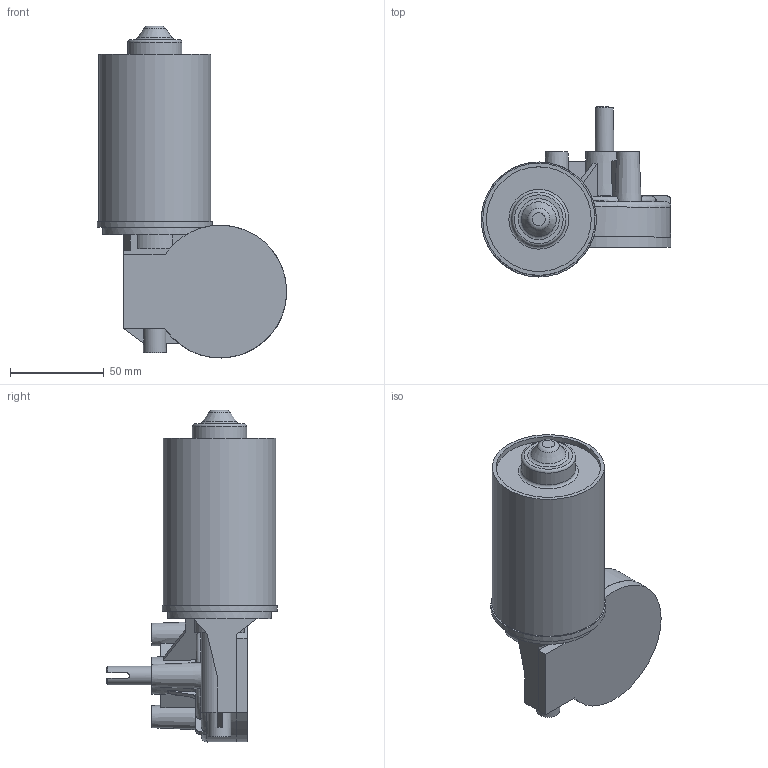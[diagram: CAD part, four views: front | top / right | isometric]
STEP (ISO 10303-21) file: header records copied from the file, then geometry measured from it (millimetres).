
FILE_DESCRIPTION(/* description */ (''),/* implementation_level */ '2;1');
FILE_NAME(/* name */ 'ZDW2560-3D-310.stp',/* time_stamp */ '2025-03-01T10:52:51+08:00',/* author */ (''),/* organization */ (''),/* preprocessor_version */ 'ST-DEVELOPER v16',/* originating_system */ 'SIEMENS PLM Software NX 10.0',/* authorisation */ '');
FILE_SCHEMA (('AUTOMOTIVE_DESIGN { 1 0 10303 214 3 1 1 1 }'));
Length unit declared in the file: millimetre
Products named in the file (1): Admi3630A68Bf4j4
Bounding box: 101.23 x 90.96 x 177.49 mm (x, y, z)
Volume: 76316.6 mm3; surface area: 84758 mm2
Topology: 5 solids, 6 shells, 230 faces, 650 edges, 431 vertices
Faces by surface type: plane 135, cylinder 69, torus 18, cone 8
Full cylindrical faces by diameter (mm): 3.1 x7, 3.4 x3, 6 x3, 10 x2, 12.2 x1, 29 x1, 56 x2, 60 x1, 61.5 x1
Entity records: 8124 total; most frequent: CARTESIAN_POINT 2294, ORIENTED_EDGE 1200, DIRECTION 1161, EDGE_CURVE 600, AXIS2_PLACEMENT_3D 430, VERTEX_POINT 414, LINE 301, VECTOR 301
